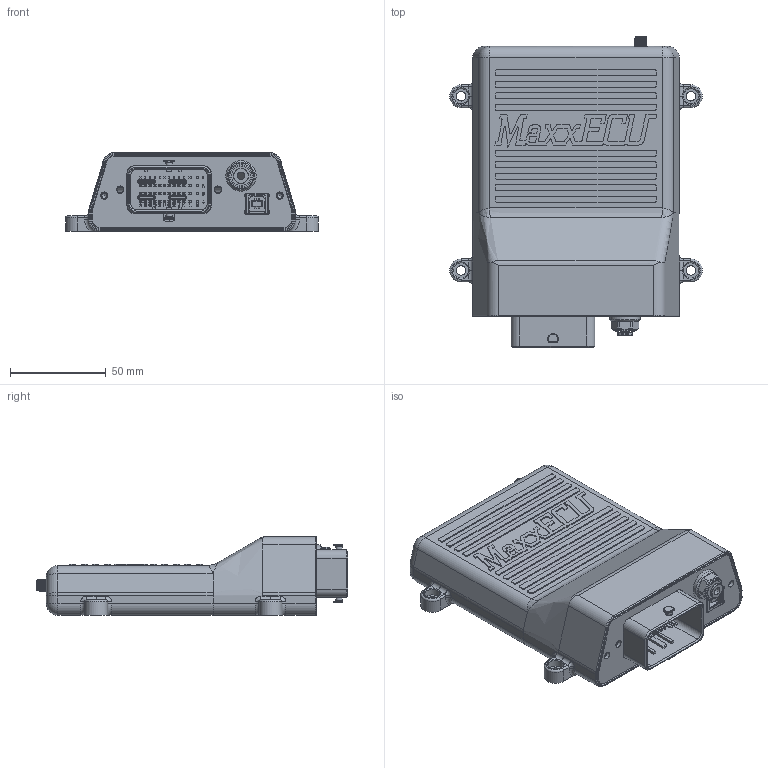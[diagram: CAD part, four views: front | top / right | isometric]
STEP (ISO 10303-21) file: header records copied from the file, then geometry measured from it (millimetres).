
FILE_DESCRIPTION(/* description */ (''),/* implementation_level */ '2;1');
FILE_NAME(/* name */ 'C:/Users/behr0/Desktop/MaxxECU Sport Export v2.step',/* time_stamp */ '2019-02-26T21:32:14+01:00',/* author */ ('behr00@gmail.com'),/* organization */ (''),/* preprocessor_version */ 'ST-DEVELOPER v17.2',/* originating_system */ 'Autodesk Translation Framework v7.6.0.251',/* authorisation */ '');
FILE_SCHEMA (('AUTOMOTIVE_DESIGN { 1 0 10303 214 3 1 1 }'));
Products named in the file (9): MaxxECU Sport Export; MaxxECU S1 connector v2; 366380002; MaxxECU S1 panel; 732510360 v1; 3116 04 00 v1; 3116_04_00; 3116_04_00_1; 670688000 v1
Assembly tree (8 placements, depth 4):
  MaxxECU Sport Export
    MaxxECU S1 connector v2
      366380002
      MaxxECU S1 panel
    732510360 v1
    3116 04 00 v1
      3116_04_00
        3116_04_00_1
    670688000 v1
Bounding box: 132 x 162.54 x 41 mm (x, y, z)
Volume: 172825.8 mm3; surface area: 116171.8 mm2
Topology: 6 solids, 6 shells, 6448 faces, 18131 edges, 11731 vertices
Faces by surface type: plane 4876, cylinder 1228, bspline 192, torus 71, cone 65, sphere 16
Full cylindrical faces by diameter (mm): 0.965 x2, 1.295 x2, 2.5 x4, 3.4 x2, 3.5 x2, 3.8 x4, 3.886 x1, 3.912 x2, 4 x1, 4.644 x2, 5 x4, 5.2 x2, 5.359 x2, 5.489 x5, 6.257 x4, 7.2 x1, 8 x4, 8.1 x2, 8.5 x1, 9 x1, 10 x2, 10.4 x1, 12 x1, 15.9 x1
Entity records: 224823 total; most frequent: CARTESIAN_POINT 57288, ORIENTED_EDGE 36214, DIRECTION 32716, EDGE_CURVE 18107, LINE 14792, VECTOR 14792, VERTEX_POINT 11731, AXIS2_PLACEMENT_3D 8962
